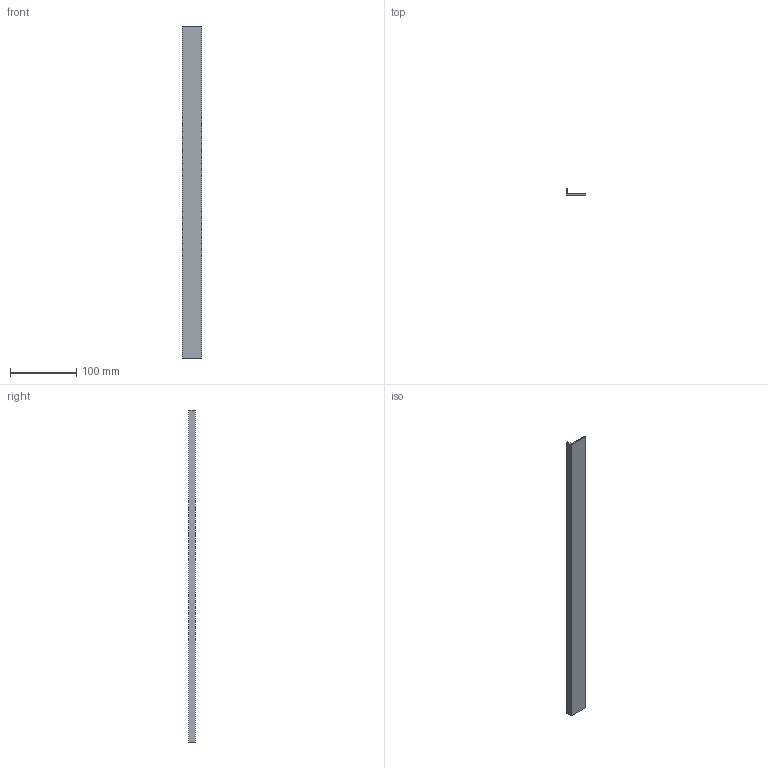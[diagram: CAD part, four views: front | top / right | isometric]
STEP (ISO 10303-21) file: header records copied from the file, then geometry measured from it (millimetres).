
FILE_DESCRIPTION (( 'STEP AP214' ), '1' );
FILE_NAME ('A40104.step', '2024-12-03T16:11:15', ( '' ), ( '' ), 'SwSTEP 2.0', 'SolidWorks 2023', '' );
FILE_SCHEMA (( 'AUTOMOTIVE_DESIGN' ));
Length unit declared in the file: millimetre
Products named in the file (1): A40104
Bounding box: 30 x 10 x 500 mm (x, y, z)
Volume: 38000 mm3; surface area: 40152 mm2
Topology: 1 solids, 1 shells, 8 faces, 18 edges, 12 vertices
Faces by surface type: plane 8
Entity records: 245 total; most frequent: CARTESIAN_POINT 39, DIRECTION 36, ORIENTED_EDGE 36, EDGE_CURVE 18, LINE 18, VECTOR 18, VERTEX_POINT 12, AXIS2_PLACEMENT_3D 9
